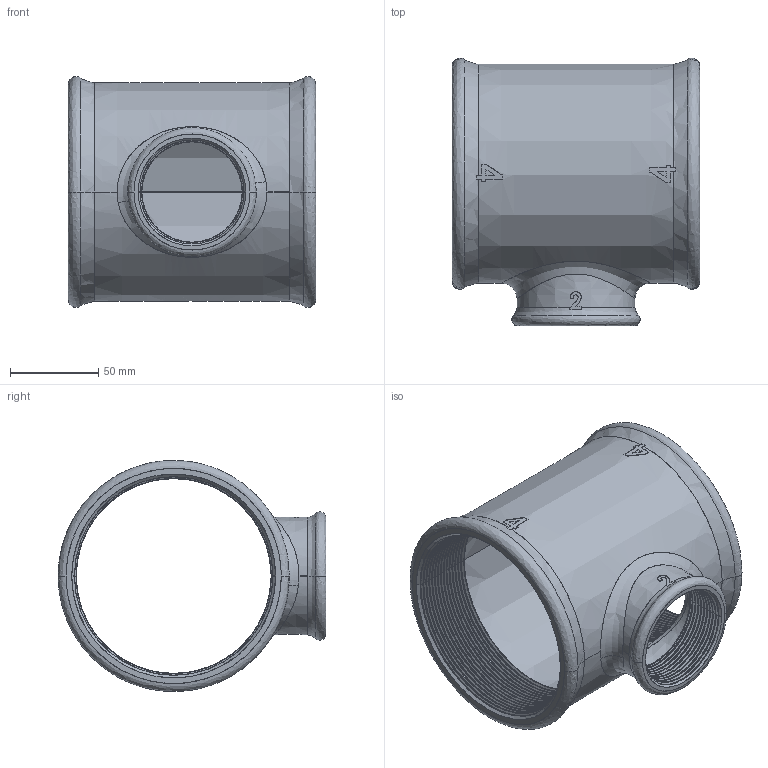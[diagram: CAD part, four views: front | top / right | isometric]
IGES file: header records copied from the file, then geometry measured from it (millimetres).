
Start section: SolidWorks IGES file using analytic representation for surfaces
Global section: file name: C:\Users\Joel Rosa\Desktop\Tubulação\12-45-XXX\12-45-058.IGS; native system: SolidWorks 2011; preprocessor: SolidWorks 2011; author: Joel Rosa; date: 121212.235032; units: millimetre
Bounding box: 140 x 151.3 x 130.59 mm (x, y, z)
Surface area: 136514.4 mm2 (no closed solid volume)
Topology: 0 solids, 0 shells, 542 faces, 4384 edges, 4384 vertices
Faces by surface type: bspline 354, revolution 188
